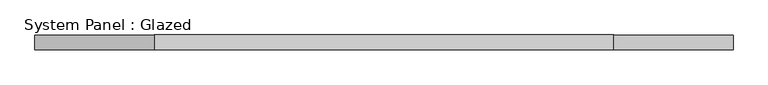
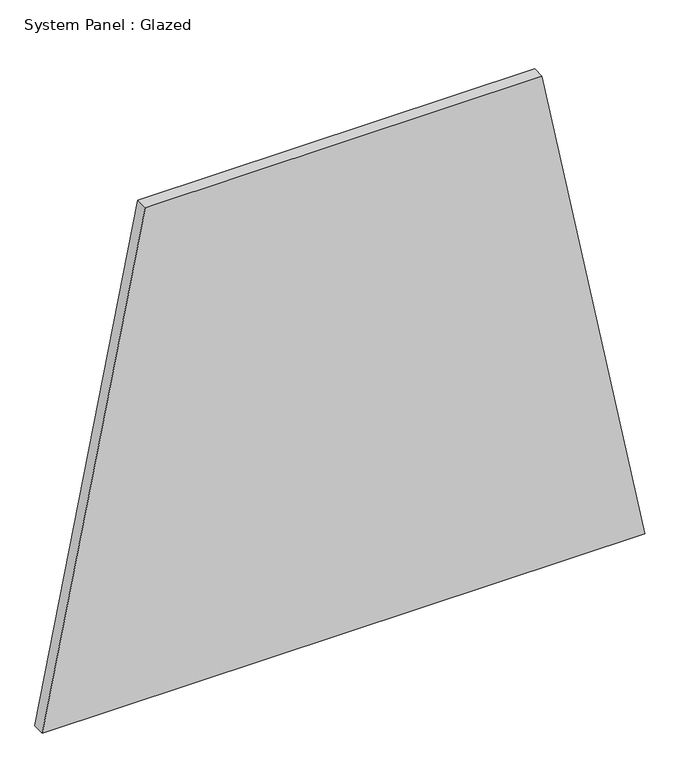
"""IFC4 building model written with IfcOpenShell, lengths in millimetres: plate geometry, System Panel : Glazed."""

from ifc_helpers import new_model, si_unit, frame, origin, place, context, project, spatial, polyline, outline, extrude, source, transform, mapped, element, save


def system_panel_glazed_d52d0d09(model_context):
    return source(origin(), model_context, "Body", "SweptSolid", [
        extrude(outline(polyline([(0.0, -607.0671918), (0.0, 607.0671918), (1046.4593026, 399.7385444), (1046.4593026, -399.7385444), (0.0, -607.0671918)])), frame((0.0, -44.45, 0.0), z_axis=(0.0, 1.0, 0.0), x_axis=(0.0, 0.0, 1.0)), (0.0, 0.0, 1.0), 25.4),
    ])


if __name__ == "__main__":
    model = new_model("IFC4")
    model_context = context("Model", 3, world=origin())
    ifc_project = project(units=[si_unit("LENGTHUNIT", "METRE", prefix="MILLI")], contexts=[model_context])
    site = spatial("IfcSite", under=ifc_project)
    building = spatial("IfcBuilding", under=site)
    placement = place(None, origin())
    system_panel_glazed_shape = system_panel_glazed_d52d0d09(model_context)
    element("IfcPlate", 1, ObjectType="System Panel : Glazed", at=placement, inside=building, context=model_context, shape_type="MappedRepresentation", body=[
        mapped(system_panel_glazed_shape, transform((0.0, 0.0, 0.0), x_axis=(1.0, 0.0, 0.0), y_axis=(0.0, 1.0, 0.0), z_axis=(0.0, 0.0, 1.0))),
    ])
    save(model, "model.ifc")
